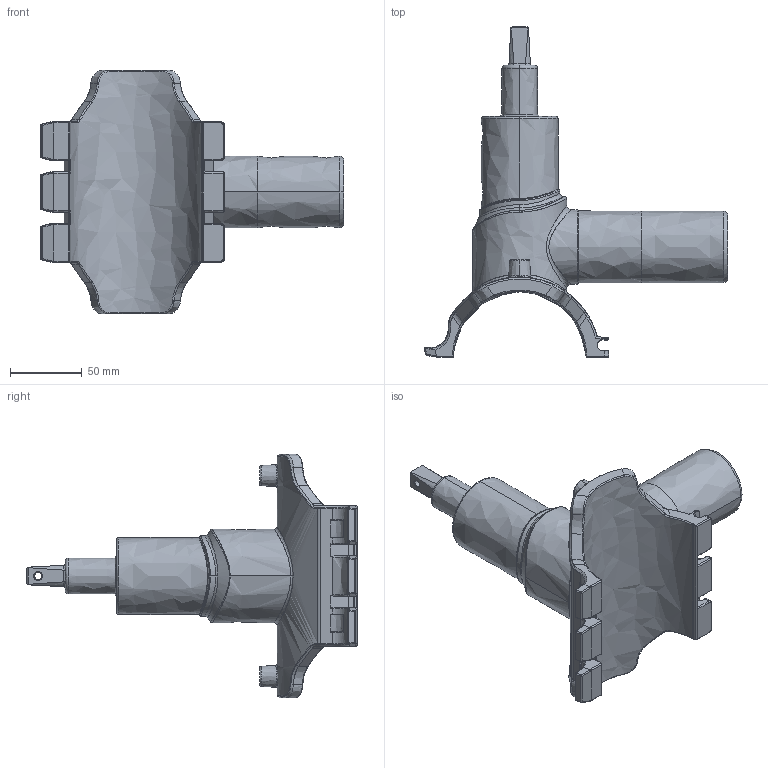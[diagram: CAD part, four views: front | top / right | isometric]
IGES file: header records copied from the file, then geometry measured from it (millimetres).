
Start section:  PTC IGES file: dav2_d90_50_01.igs
Global section: file name: dav2_d90_50_01.igs; native system: Creo Parametric by PTC Inc.; preprocessor: 2019030; author: mikulicp; organization: Unknown; date: 20210622.135901; units: millimetre
Bounding box: 211.41 x 230.7 x 170 mm (x, y, z)
Surface area: 108044.5 mm2 (no closed solid volume)
Topology: 0 solids, 0 shells, 573 faces, 2780 edges, 2774 vertices
Faces by surface type: bspline 573
